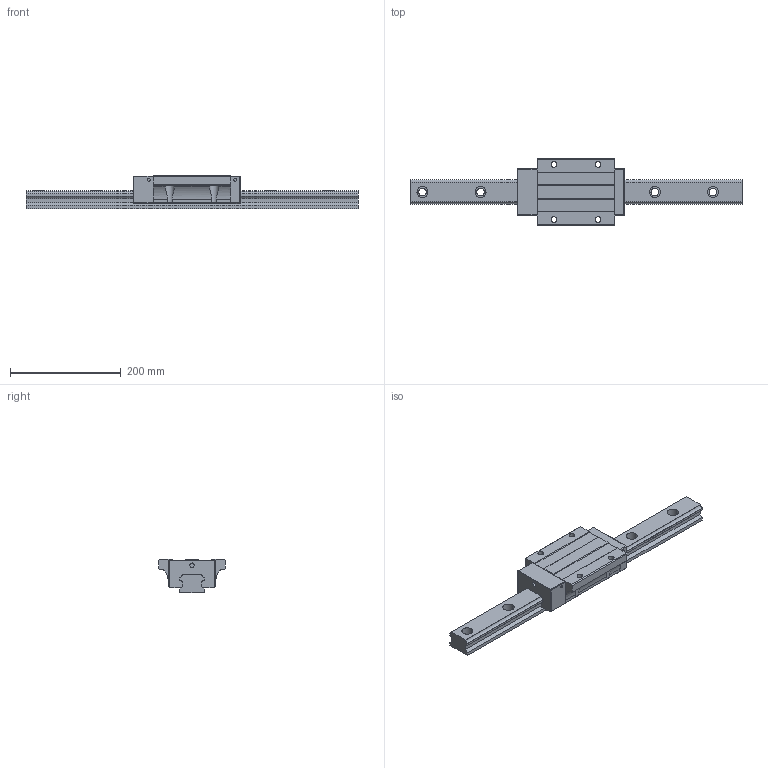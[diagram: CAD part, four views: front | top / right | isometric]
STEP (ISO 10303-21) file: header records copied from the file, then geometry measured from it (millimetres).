
FILE_DESCRIPTION (( 'STEP AP203' ), '1' );
FILE_NAME ('TRH45FE-BN.STEP', '2024-06-26T08:01:02', ( '' ), ( '' ), 'SwSTEP 2.0', 'SolidWorks 2022', '' );
FILE_SCHEMA (( 'CONFIG_CONTROL_DESIGN' ));
Length unit declared in the file: millimetre
Products named in the file (1): TRH45FE-BN
Bounding box: 600 x 120 x 60 mm (x, y, z)
Volume: 1431314.1 mm3; surface area: 189271.6 mm2
Topology: 2 solids, 2 shells, 214 faces, 582 edges, 380 vertices
Faces by surface type: cylinder 114, plane 96, sphere 4
Entity records: 7369 total; most frequent: CARTESIAN_POINT 1749, DIRECTION 1172, ORIENTED_EDGE 1156, EDGE_CURVE 578, AXIS2_PLACEMENT_3D 411, VERTEX_POINT 380, VECTOR 350, LINE 350
